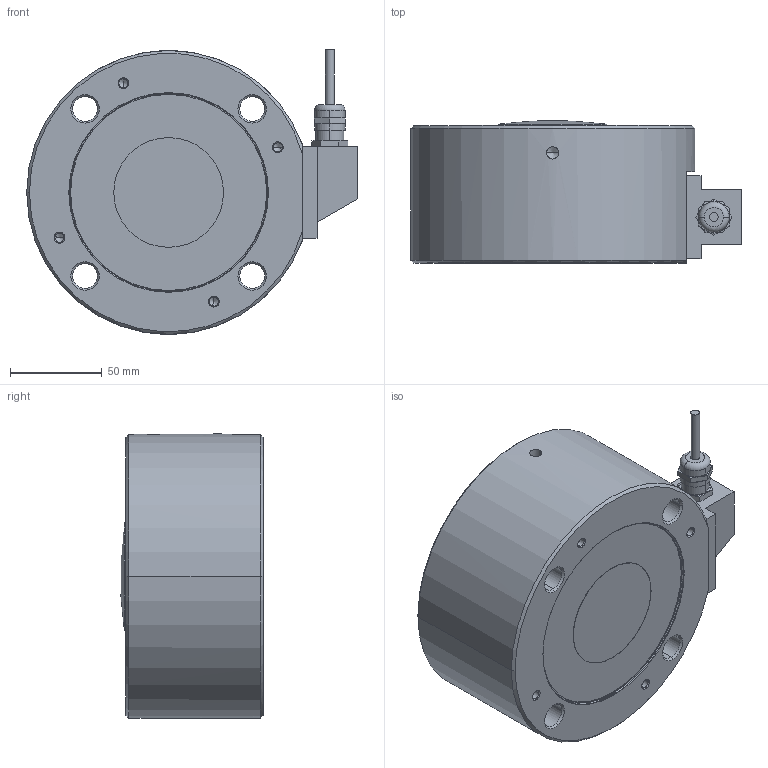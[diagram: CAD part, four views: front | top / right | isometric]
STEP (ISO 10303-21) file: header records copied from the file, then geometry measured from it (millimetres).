
FILE_DESCRIPTION(('STEP AP203'),'1');
FILE_NAME('C:/TPO v2/SharedFS/Outgoing/burster_8527-6100_es9apcw0uy5s4urnul9bld43e.stp','2013-08-27T13:28:18',('TraceParts'),('TraceParts S.A.'),'XStep 1.0',' ',' ');
FILE_SCHEMA(('CONFIG_CONTROL_DESIGN'));
Length unit declared in the file: millimetre
Products named in the file (1): 1
Bounding box: 180.5 x 77.76 x 155.5 mm (x, y, z)
Volume: 1389623 mm3; surface area: 94811.5 mm2
Topology: 1 solids, 3 shells, 161 faces, 375 edges, 227 vertices
Faces by surface type: cylinder 54, cone 54, plane 40, torus 12, sphere 1
Entity records: 4669 total; most frequent: CARTESIAN_POINT 968, DIRECTION 823, ORIENTED_EDGE 726, EDGE_CURVE 363, AXIS2_PLACEMENT_3D 344, VERTEX_POINT 227, EDGE_LOOP 192, CIRCLE 182
